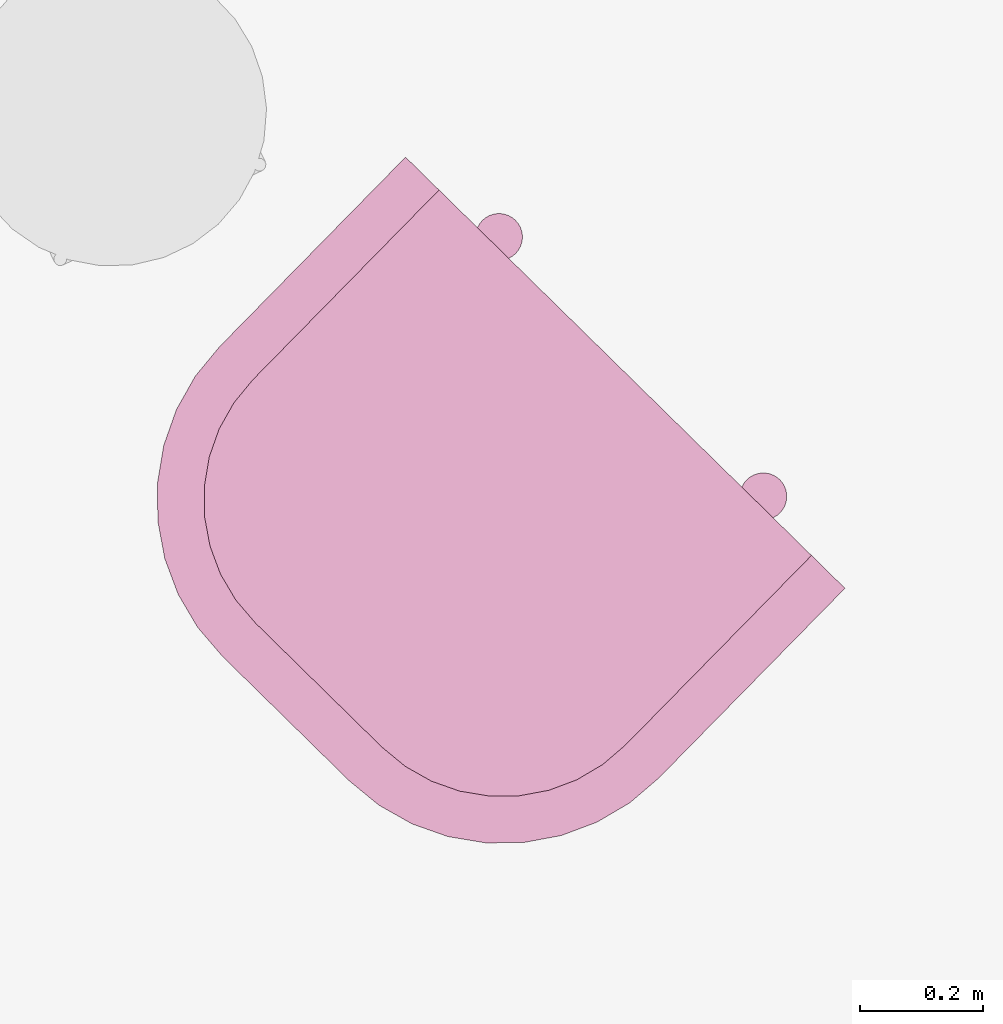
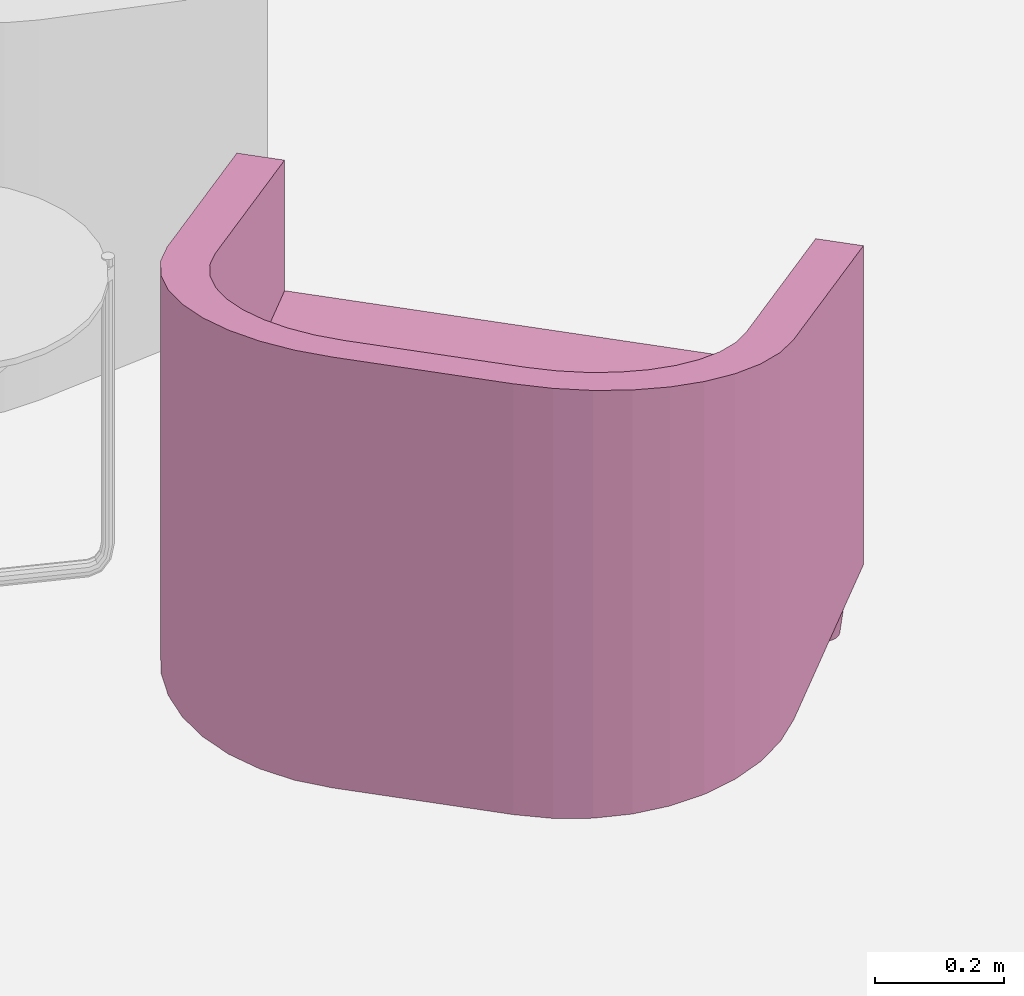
# One storey, part 24 of 36: 1 furnishing.
"""IFC2X3 building model written with IfcOpenShell, lengths in metres."""

from ifc_helpers import new_model, entity, si_unit, converted_unit, derived_unit, money_unit, direction, frame, origin_with_axes, place, context, subcontext, project, spatial, faceted_brep, source, transform, mapped, type_object, element, save


model = new_model("IFC2X3")

# Units and contexts
model_context = context("Model", 3, precision=1e-05, world=origin_with_axes(), true_north=direction((0.0, 1.0)))
body_context = subcontext(model_context, "Body", "Model", "MODEL_VIEW")
ifc_project = project(units=[si_unit("LENGTHUNIT", "METRE"), si_unit("AREAUNIT", "SQUARE_METRE"), si_unit("VOLUMEUNIT", "CUBIC_METRE"), converted_unit("PLANEANGLEUNIT", "DEGREE", entity("IfcPlaneAngleMeasure", 0.0174532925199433), si_unit("PLANEANGLEUNIT", "RADIAN"), dimensions=[0, 0, 0, 0, 0, 0, 0]), money_unit("EUR"), converted_unit("TIMEUNIT", "Year", entity("IfcTimeMeasure", 31556926.0), si_unit("TIMEUNIT", "SECOND"), dimensions=[0, 0, 1, 0, 0, 0, 0]), si_unit("MASSUNIT", "GRAM", prefix="KILO"), si_unit("THERMODYNAMICTEMPERATUREUNIT", "DEGREE_CELSIUS"), si_unit("LUMINOUSINTENSITYUNIT", "LUMEN"), si_unit("ENERGYUNIT", "JOULE", prefix="MEGA"), derived_unit("THERMALCONDUCTANCEUNIT", [(si_unit("POWERUNIT", "WATT"), 1), (si_unit("LENGTHUNIT", "METRE"), -1), (si_unit("THERMODYNAMICTEMPERATUREUNIT", "KELVIN"), -1)]), derived_unit("SPECIFICHEATCAPACITYUNIT", [(si_unit("ENERGYUNIT", "JOULE"), 1), (si_unit("MASSUNIT", "GRAM", prefix="KILO"), -1), (si_unit("THERMODYNAMICTEMPERATUREUNIT", "KELVIN"), -1)]), derived_unit("MASSDENSITYUNIT", [(si_unit("MASSUNIT", "GRAM", prefix="KILO"), 1), (si_unit("VOLUMEUNIT", "CUBIC_METRE"), -1)])], contexts=[model_context])

# Site, building, storey
site_placement = place(None, frame((-3.949935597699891, 1.740105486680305, 0.0), z_axis=(0.0, 0.0, 1.0), x_axis=(0.8799804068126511, -0.475009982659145, 0.0)))
site = spatial("IfcSite", under=ifc_project, at=site_placement, Name="Gelände", CompositionType="ELEMENT")
building_placement = place(site_placement, origin_with_axes())
building = spatial("IfcBuilding", under=site, at=building_placement, Name="Gebäude", CompositionType="ELEMENT")
storey_placement = place(building_placement, origin_with_axes())
storey = spatial("IfcBuildingStorey", under=building, at=storey_placement, Name="Erdgeschoss", CompositionType="ELEMENT", Elevation=0.0)

# Furnishing
furniture_type = type_object("IfcFurnitureType", Name="bucket chair (1)", AssemblyPlace="NOTDEFINED")
shared_shape = source(origin_with_axes(), body_context, "Body", "Brep", [
    faceted_brep([(-0.47421411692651, 0.73188933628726, 0.0), (-0.4867211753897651, 0.72968400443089, 0.1016), (-0.4873, 0.7363000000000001, 0.1016), (-0.4746, 0.7363000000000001, 0.0), (-0.473068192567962, 0.7276126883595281, 0.0), (-0.485002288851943, 0.7232690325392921, 0.1016), (-0.482195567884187, 0.71725, 0.1016), (-0.478386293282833, 0.711809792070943, 0.1016), (-0.4736902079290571, 0.707113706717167, 0.1016), (-0.4682499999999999, 0.7033044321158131, 0.1016), (-0.462230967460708, 0.700497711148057, 0.1016), (-0.45581599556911, 0.698778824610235, 0.1016), (-0.4492, 0.6982000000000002, 0.1016), (-0.44258400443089, 0.698778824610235, 0.1016), (-0.436169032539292, 0.700497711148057, 0.1016), (-0.43015, 0.703304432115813, 0.1016), (-0.4247097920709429, 0.707113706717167, 0.1016), (-0.420013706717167, 0.711809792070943, 0.1016), (-0.4162044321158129, 0.71725, 0.1016), (-0.4133977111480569, 0.7232690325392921, 0.1016), (-0.4116788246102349, 0.72968400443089, 0.1016), (-0.4111, 0.7363000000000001, 0.1016), (-0.4116788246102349, 0.7429159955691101, 0.1016), (-0.4133977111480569, 0.749330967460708, 0.1016), (-0.4162044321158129, 0.7553500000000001, 0.1016), (-0.420013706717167, 0.7607902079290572, 0.1016), (-0.4247097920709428, 0.7654862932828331, 0.1016), (-0.43015, 0.7692955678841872, 0.1016), (-0.436169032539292, 0.7721022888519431, 0.1016), (-0.44258400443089, 0.7738211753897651, 0.1016), (-0.4492, 0.7744000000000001, 0.1016), (-0.45581599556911, 0.7738211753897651, 0.1016), (-0.462230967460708, 0.7721022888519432, 0.1016), (-0.46825, 0.7692955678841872, 0.1016), (-0.4736902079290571, 0.7654862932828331, 0.1016), (-0.4783862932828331, 0.7607902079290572, 0.1016), (-0.4821955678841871, 0.7553500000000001, 0.1016), (-0.4850022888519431, 0.749330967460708, 0.1016), (-0.4867211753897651, 0.7429159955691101, 0.1016), (-0.4742141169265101, 0.7407106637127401, 0.0), (-0.4730681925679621, 0.744987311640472, 0.0), (-0.4711970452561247, 0.7490000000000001, 0.0), (-0.468657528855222, 0.7526268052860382, 0.0), (-0.4655268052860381, 0.7557575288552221, 0.0), (-0.4619, 0.7582970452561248, 0.0), (-0.457887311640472, 0.7601681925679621, 0.0), (-0.45361066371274, 0.7613141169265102, 0.0), (-0.4492, 0.7617, 0.0), (-0.44478933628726, 0.7613141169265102, 0.0), (-0.440512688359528, 0.7601681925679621, 0.0), (-0.4365, 0.7582970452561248, 0.0), (-0.4328731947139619, 0.7557575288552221, 0.0), (-0.429742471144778, 0.7526268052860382, 0.0), (-0.4272029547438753, 0.7490000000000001, 0.0), (-0.4253318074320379, 0.744987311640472, 0.0), (-0.4241858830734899, 0.7407106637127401, 0.0), (-0.4238, 0.7363000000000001, 0.0), (-0.4241858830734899, 0.73188933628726, 0.0), (-0.4253318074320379, 0.7276126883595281, 0.0), (-0.4272029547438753, 0.7236000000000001, 0.0), (-0.429742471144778, 0.719973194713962, 0.0), (-0.4328731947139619, 0.7168424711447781, 0.0), (-0.4365, 0.7143029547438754, 0.0), (-0.440512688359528, 0.712431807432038, 0.0), (-0.44478933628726, 0.71128588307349, 0.0), (-0.4492, 0.7109000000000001, 0.0), (-0.45361066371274, 0.71128588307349, 0.0), (-0.457887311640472, 0.712431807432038, 0.0), (-0.4619, 0.7143029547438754, 0.0), (-0.4655268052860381, 0.7168424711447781, 0.0), (-0.468657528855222, 0.719973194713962, 0.0), (-0.4711970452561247, 0.7236000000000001, 0.0)], [[[0, 1, 2, 3]], [[4, 5, 1, 0]], [[1, 5, 6, 7, 8, 9, 10, 11, 12, 13, 14, 15, 16, 17, 18, 19, 20, 21, 22, 23, 24, 25, 26, 27, 28, 29, 30, 31, 32, 33, 34, 35, 36, 37, 38, 2]], [[3, 2, 38, 39]], [[0, 3, 39, 40, 41, 42, 43, 44, 45, 46, 47, 48, 49, 50, 51, 52, 53, 54, 55, 56, 57, 58, 59, 60, 61, 62, 63, 64, 65, 66, 67, 68, 69, 70, 71, 4]], [[71, 6, 5, 4]], [[70, 7, 6, 71]], [[69, 8, 7, 70]], [[68, 9, 8, 69]], [[67, 10, 9, 68]], [[66, 11, 10, 67]], [[65, 12, 11, 66]], [[64, 13, 12, 65]], [[63, 14, 13, 64]], [[62, 15, 14, 63]], [[61, 16, 15, 62]], [[60, 17, 16, 61]], [[59, 18, 17, 60]], [[58, 19, 18, 59]], [[57, 20, 19, 58]], [[56, 21, 20, 57]], [[55, 22, 21, 56]], [[54, 23, 22, 55]], [[53, 24, 23, 54]], [[52, 25, 24, 53]], [[51, 26, 25, 52]], [[50, 27, 26, 51]], [[49, 28, 27, 50]], [[48, 29, 28, 49]], [[47, 30, 29, 48]], [[46, 31, 30, 47]], [[45, 32, 31, 46]], [[44, 33, 32, 45]], [[43, 34, 33, 44]], [[42, 35, 34, 43]], [[41, 36, 35, 42]], [[40, 37, 36, 41]], [[39, 38, 37, 40]]]),
    faceted_brep([(0.42418588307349, 0.73188933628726, 0.0), (0.4116788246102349, 0.72968400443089, 0.1016), (0.4111, 0.7363000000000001, 0.1016), (0.4238, 0.7363000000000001, 0.0), (0.425331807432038, 0.7276126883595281, 0.0), (0.413397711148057, 0.7232690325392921, 0.1016), (0.4162044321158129, 0.71725, 0.1016), (0.420013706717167, 0.711809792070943, 0.1016), (0.4247097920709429, 0.707113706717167, 0.1016), (0.43015, 0.7033044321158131, 0.1016), (0.436169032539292, 0.700497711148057, 0.1016), (0.44258400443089, 0.698778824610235, 0.1016), (0.4492, 0.6982000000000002, 0.1016), (0.45581599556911, 0.698778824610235, 0.1016), (0.462230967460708, 0.700497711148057, 0.1016), (0.4682499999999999, 0.703304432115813, 0.1016), (0.4736902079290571, 0.707113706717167, 0.1016), (0.478386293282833, 0.711809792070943, 0.1016), (0.482195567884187, 0.71725, 0.1016), (0.4850022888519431, 0.7232690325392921, 0.1016), (0.4867211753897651, 0.72968400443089, 0.1016), (0.4873, 0.7363000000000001, 0.1016), (0.4867211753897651, 0.7429159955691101, 0.1016), (0.4850022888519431, 0.749330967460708, 0.1016), (0.482195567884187, 0.7553500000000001, 0.1016), (0.478386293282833, 0.7607902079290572, 0.1016), (0.4736902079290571, 0.7654862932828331, 0.1016), (0.4682499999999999, 0.7692955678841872, 0.1016), (0.462230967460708, 0.7721022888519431, 0.1016), (0.45581599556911, 0.7738211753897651, 0.1016), (0.4492, 0.7744000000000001, 0.1016), (0.44258400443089, 0.7738211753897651, 0.1016), (0.436169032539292, 0.7721022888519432, 0.1016), (0.43015, 0.7692955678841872, 0.1016), (0.4247097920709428, 0.7654862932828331, 0.1016), (0.4200137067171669, 0.7607902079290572, 0.1016), (0.4162044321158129, 0.7553500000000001, 0.1016), (0.4133977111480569, 0.749330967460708, 0.1016), (0.4116788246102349, 0.7429159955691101, 0.1016), (0.4241858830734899, 0.7407106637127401, 0.0), (0.4253318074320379, 0.744987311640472, 0.0), (0.4272029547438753, 0.7490000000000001, 0.0), (0.4297424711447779, 0.7526268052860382, 0.0), (0.4328731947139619, 0.7557575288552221, 0.0), (0.4365, 0.7582970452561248, 0.0), (0.440512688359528, 0.7601681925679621, 0.0), (0.44478933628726, 0.7613141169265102, 0.0), (0.4492, 0.7617, 0.0), (0.45361066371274, 0.7613141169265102, 0.0), (0.457887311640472, 0.7601681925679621, 0.0), (0.4619, 0.7582970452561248, 0.0), (0.4655268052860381, 0.7557575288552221, 0.0), (0.468657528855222, 0.7526268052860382, 0.0), (0.4711970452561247, 0.7490000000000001, 0.0), (0.4730681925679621, 0.744987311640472, 0.0), (0.4742141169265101, 0.7407106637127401, 0.0), (0.4746, 0.7363000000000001, 0.0), (0.4742141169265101, 0.73188933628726, 0.0), (0.4730681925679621, 0.7276126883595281, 0.0), (0.4711970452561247, 0.7236000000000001, 0.0), (0.468657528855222, 0.719973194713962, 0.0), (0.4655268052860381, 0.7168424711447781, 0.0), (0.4619, 0.7143029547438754, 0.0), (0.457887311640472, 0.712431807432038, 0.0), (0.45361066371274, 0.71128588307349, 0.0), (0.4492, 0.7109000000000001, 0.0), (0.44478933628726, 0.71128588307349, 0.0), (0.440512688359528, 0.712431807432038, 0.0), (0.4365, 0.7143029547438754, 0.0), (0.4328731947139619, 0.7168424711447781, 0.0), (0.429742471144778, 0.719973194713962, 0.0), (0.4272029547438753, 0.7236000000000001, 0.0)], [[[0, 1, 2, 3]], [[4, 5, 1, 0]], [[1, 5, 6, 7, 8, 9, 10, 11, 12, 13, 14, 15, 16, 17, 18, 19, 20, 21, 22, 23, 24, 25, 26, 27, 28, 29, 30, 31, 32, 33, 34, 35, 36, 37, 38, 2]], [[3, 2, 38, 39]], [[0, 3, 39, 40, 41, 42, 43, 44, 45, 46, 47, 48, 49, 50, 51, 52, 53, 54, 55, 56, 57, 58, 59, 60, 61, 62, 63, 64, 65, 66, 67, 68, 69, 70, 71, 4]], [[71, 6, 5, 4]], [[70, 7, 6, 71]], [[69, 8, 7, 70]], [[68, 9, 8, 69]], [[67, 10, 9, 68]], [[66, 11, 10, 67]], [[65, 12, 11, 66]], [[64, 13, 12, 65]], [[63, 14, 13, 64]], [[62, 15, 14, 63]], [[61, 16, 15, 62]], [[60, 17, 16, 61]], [[59, 18, 17, 60]], [[58, 19, 18, 59]], [[57, 20, 19, 58]], [[56, 21, 20, 57]], [[55, 22, 21, 56]], [[54, 23, 22, 55]], [[53, 24, 23, 54]], [[52, 25, 24, 53]], [[51, 26, 25, 52]], [[50, 27, 26, 51]], [[49, 28, 27, 50]], [[48, 29, 28, 49]], [[47, 30, 29, 48]], [[46, 31, 30, 47]], [[45, 32, 31, 46]], [[44, 33, 32, 45]], [[43, 34, 33, 44]], [[42, 35, 34, 43]], [[41, 36, 35, 42]], [[40, 37, 36, 41]], [[39, 38, 37, 40]]]),
    faceted_brep([(-0.3258141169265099, 0.7963893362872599, 0.0), (-0.338321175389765, 0.7941840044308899, 0.1016), (-0.3388999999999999, 0.8008, 0.1016), (-0.3261999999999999, 0.8008, 0.0), (-0.3246681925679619, 0.792112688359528, 0.0), (-0.3366022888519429, 0.787769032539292, 0.1016), (-0.333795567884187, 0.78175, 0.1016), (-0.3299862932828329, 0.7763097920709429, 0.1016), (-0.325290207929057, 0.7716137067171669, 0.1016), (-0.3198499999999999, 0.767804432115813, 0.1016), (-0.3138309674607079, 0.7649977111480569, 0.1016), (-0.3074159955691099, 0.7632788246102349, 0.1016), (-0.3007999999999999, 0.7627, 0.1016), (-0.2941840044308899, 0.7632788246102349, 0.1016), (-0.2877690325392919, 0.7649977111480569, 0.1016), (-0.2817499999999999, 0.7678044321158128, 0.1016), (-0.2763097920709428, 0.7716137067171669, 0.1016), (-0.2716137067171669, 0.7763097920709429, 0.1016), (-0.2678044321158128, 0.78175, 0.1016), (-0.2649977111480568, 0.787769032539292, 0.1016), (-0.2632788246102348, 0.7941840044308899, 0.1016), (-0.2626999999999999, 0.8008, 0.1016), (-0.2632788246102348, 0.80741599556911, 0.1016), (-0.2649977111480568, 0.8138309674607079, 0.1016), (-0.2678044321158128, 0.81985, 0.1016), (-0.2716137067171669, 0.825290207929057, 0.1016), (-0.2763097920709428, 0.829986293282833, 0.1016), (-0.2817499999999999, 0.8337955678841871, 0.1016), (-0.2877690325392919, 0.8366022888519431, 0.1016), (-0.2941840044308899, 0.838321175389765, 0.1016), (-0.3007999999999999, 0.8389, 0.1016), (-0.3074159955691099, 0.838321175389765, 0.1016), (-0.3138309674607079, 0.8366022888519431, 0.1016), (-0.3198499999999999, 0.8337955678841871, 0.1016), (-0.3252902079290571, 0.829986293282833, 0.1016), (-0.329986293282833, 0.825290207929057, 0.1016), (-0.333795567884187, 0.81985, 0.1016), (-0.336602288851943, 0.8138309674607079, 0.1016), (-0.338321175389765, 0.80741599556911, 0.1016), (-0.32581411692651, 0.80521066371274, 0.0), (-0.324668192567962, 0.8094873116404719, 0.0), (-0.3227970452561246, 0.8135, 0.0), (-0.320257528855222, 0.8171268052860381, 0.0), (-0.317126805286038, 0.820257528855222, 0.0), (-0.3134999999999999, 0.8227970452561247, 0.0), (-0.3094873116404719, 0.824668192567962, 0.0), (-0.3052106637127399, 0.8258141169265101, 0.0), (-0.3007999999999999, 0.8261999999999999, 0.0), (-0.2963893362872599, 0.8258141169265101, 0.0), (-0.2921126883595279, 0.824668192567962, 0.0), (-0.2880999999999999, 0.8227970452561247, 0.0), (-0.2844731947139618, 0.820257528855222, 0.0), (-0.2813424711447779, 0.8171268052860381, 0.0), (-0.2788029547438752, 0.8135, 0.0), (-0.2769318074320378, 0.8094873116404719, 0.0), (-0.2757858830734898, 0.80521066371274, 0.0), (-0.2753999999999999, 0.8008, 0.0), (-0.2757858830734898, 0.7963893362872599, 0.0), (-0.2769318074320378, 0.792112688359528, 0.0), (-0.2788029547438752, 0.7881, 0.0), (-0.2813424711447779, 0.7844731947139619, 0.0), (-0.2844731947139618, 0.781342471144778, 0.0), (-0.2880999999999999, 0.7788029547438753, 0.0), (-0.2921126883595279, 0.7769318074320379, 0.0), (-0.2963893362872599, 0.77578588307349, 0.0), (-0.3007999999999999, 0.7754, 0.0), (-0.3052106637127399, 0.77578588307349, 0.0), (-0.3094873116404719, 0.7769318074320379, 0.0), (-0.3134999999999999, 0.7788029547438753, 0.0), (-0.317126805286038, 0.781342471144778, 0.0), (-0.3202575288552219, 0.7844731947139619, 0.0), (-0.3227970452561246, 0.7881, 0.0)], [[[0, 1, 2, 3]], [[4, 5, 1, 0]], [[1, 5, 6, 7, 8, 9, 10, 11, 12, 13, 14, 15, 16, 17, 18, 19, 20, 21, 22, 23, 24, 25, 26, 27, 28, 29, 30, 31, 32, 33, 34, 35, 36, 37, 38, 2]], [[3, 2, 38, 39]], [[0, 3, 39, 40, 41, 42, 43, 44, 45, 46, 47, 48, 49, 50, 51, 52, 53, 54, 55, 56, 57, 58, 59, 60, 61, 62, 63, 64, 65, 66, 67, 68, 69, 70, 71, 4]], [[71, 6, 5, 4]], [[70, 7, 6, 71]], [[69, 8, 7, 70]], [[68, 9, 8, 69]], [[67, 10, 9, 68]], [[66, 11, 10, 67]], [[65, 12, 11, 66]], [[64, 13, 12, 65]], [[63, 14, 13, 64]], [[62, 15, 14, 63]], [[61, 16, 15, 62]], [[60, 17, 16, 61]], [[59, 18, 17, 60]], [[58, 19, 18, 59]], [[57, 20, 19, 58]], [[56, 21, 20, 57]], [[55, 22, 21, 56]], [[54, 23, 22, 55]], [[53, 24, 23, 54]], [[52, 25, 24, 53]], [[51, 26, 25, 52]], [[50, 27, 26, 51]], [[49, 28, 27, 50]], [[48, 29, 28, 49]], [[47, 30, 29, 48]], [[46, 31, 30, 47]], [[45, 32, 31, 46]], [[44, 33, 32, 45]], [[43, 34, 33, 44]], [[42, 35, 34, 43]], [[41, 36, 35, 42]], [[40, 37, 36, 41]], [[39, 38, 37, 40]]]),
    faceted_brep([(0.2757858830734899, 0.7963893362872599, 0.0), (0.2632788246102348, 0.7941840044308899, 0.1016), (0.2626999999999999, 0.8008, 0.1016), (0.2753999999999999, 0.8008, 0.0), (0.2769318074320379, 0.792112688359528, 0.0), (0.2649977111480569, 0.787769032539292, 0.1016), (0.2678044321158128, 0.78175, 0.1016), (0.2716137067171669, 0.7763097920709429, 0.1016), (0.2763097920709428, 0.7716137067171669, 0.1016), (0.2817499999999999, 0.767804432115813, 0.1016), (0.2877690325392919, 0.7649977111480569, 0.1016), (0.2941840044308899, 0.7632788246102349, 0.1016), (0.3007999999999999, 0.7627, 0.1016), (0.3074159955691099, 0.7632788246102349, 0.1016), (0.3138309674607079, 0.7649977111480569, 0.1016), (0.3198499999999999, 0.7678044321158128, 0.1016), (0.325290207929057, 0.7716137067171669, 0.1016), (0.3299862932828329, 0.7763097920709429, 0.1016), (0.333795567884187, 0.78175, 0.1016), (0.336602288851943, 0.787769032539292, 0.1016), (0.338321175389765, 0.7941840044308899, 0.1016), (0.3388999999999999, 0.8008, 0.1016), (0.338321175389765, 0.80741599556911, 0.1016), (0.336602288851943, 0.8138309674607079, 0.1016), (0.333795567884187, 0.81985, 0.1016), (0.3299862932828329, 0.825290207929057, 0.1016), (0.3252902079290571, 0.829986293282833, 0.1016), (0.3198499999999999, 0.8337955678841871, 0.1016), (0.3138309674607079, 0.8366022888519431, 0.1016), (0.3074159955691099, 0.838321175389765, 0.1016), (0.3007999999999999, 0.8389, 0.1016), (0.2941840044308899, 0.838321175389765, 0.1016), (0.2877690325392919, 0.8366022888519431, 0.1016), (0.2817499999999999, 0.8337955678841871, 0.1016), (0.2763097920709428, 0.829986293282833, 0.1016), (0.2716137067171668, 0.825290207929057, 0.1016), (0.2678044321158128, 0.81985, 0.1016), (0.2649977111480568, 0.8138309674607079, 0.1016), (0.2632788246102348, 0.80741599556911, 0.1016), (0.2757858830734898, 0.80521066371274, 0.0), (0.2769318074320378, 0.8094873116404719, 0.0), (0.2788029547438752, 0.8135, 0.0), (0.2813424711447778, 0.8171268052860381, 0.0), (0.2844731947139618, 0.820257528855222, 0.0), (0.2880999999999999, 0.8227970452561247, 0.0), (0.2921126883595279, 0.824668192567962, 0.0), (0.2963893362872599, 0.8258141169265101, 0.0), (0.3007999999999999, 0.8261999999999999, 0.0), (0.3052106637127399, 0.8258141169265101, 0.0), (0.3094873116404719, 0.824668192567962, 0.0), (0.3134999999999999, 0.8227970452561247, 0.0), (0.317126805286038, 0.820257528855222, 0.0), (0.3202575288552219, 0.8171268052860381, 0.0), (0.3227970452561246, 0.8135, 0.0), (0.324668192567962, 0.8094873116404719, 0.0), (0.32581411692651, 0.80521066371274, 0.0), (0.3261999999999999, 0.8008, 0.0), (0.32581411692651, 0.7963893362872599, 0.0), (0.324668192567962, 0.792112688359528, 0.0), (0.3227970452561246, 0.7881, 0.0), (0.3202575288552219, 0.7844731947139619, 0.0), (0.317126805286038, 0.781342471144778, 0.0), (0.3134999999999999, 0.7788029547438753, 0.0), (0.3094873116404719, 0.7769318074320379, 0.0), (0.3052106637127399, 0.77578588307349, 0.0), (0.3007999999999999, 0.7754, 0.0), (0.2963893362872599, 0.77578588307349, 0.0), (0.2921126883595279, 0.7769318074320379, 0.0), (0.2880999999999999, 0.7788029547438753, 0.0), (0.2844731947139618, 0.781342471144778, 0.0), (0.2813424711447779, 0.7844731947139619, 0.0), (0.2788029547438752, 0.7881, 0.0)], [[[0, 1, 2, 3]], [[4, 5, 1, 0]], [[1, 5, 6, 7, 8, 9, 10, 11, 12, 13, 14, 15, 16, 17, 18, 19, 20, 21, 22, 23, 24, 25, 26, 27, 28, 29, 30, 31, 32, 33, 34, 35, 36, 37, 38, 2]], [[3, 2, 38, 39]], [[0, 3, 39, 40, 41, 42, 43, 44, 45, 46, 47, 48, 49, 50, 51, 52, 53, 54, 55, 56, 57, 58, 59, 60, 61, 62, 63, 64, 65, 66, 67, 68, 69, 70, 71, 4]], [[71, 6, 5, 4]], [[70, 7, 6, 71]], [[69, 8, 7, 70]], [[68, 9, 8, 69]], [[67, 10, 9, 68]], [[66, 11, 10, 67]], [[65, 12, 11, 66]], [[64, 13, 12, 65]], [[63, 14, 13, 64]], [[62, 15, 14, 63]], [[61, 16, 15, 62]], [[60, 17, 16, 61]], [[59, 18, 17, 60]], [[58, 19, 18, 59]], [[57, 20, 19, 58]], [[56, 21, 20, 57]], [[55, 22, 21, 56]], [[54, 23, 22, 55]], [[53, 24, 23, 54]], [[52, 25, 24, 53]], [[51, 26, 25, 52]], [[50, 27, 26, 51]], [[49, 28, 27, 50]], [[48, 29, 28, 49]], [[47, 30, 29, 48]], [[46, 31, 30, 47]], [[45, 32, 31, 46]], [[44, 33, 32, 45]], [[43, 34, 33, 44]], [[42, 35, 34, 43]], [[41, 36, 35, 42]], [[40, 37, 36, 41]], [[39, 38, 37, 40]]]),
    faceted_brep([(0.5, 0.7871, 0.1016), (0.5, 0.7871, 0.7034971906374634), (0.5, 0.3556, 0.8191172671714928), (0.5, 0.3556, 0.1016), (0.4238, 0.7871, 0.1016), (0.4238, 0.7871, 0.7034971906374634), (0.4238, 0.3556000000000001, 0.8191172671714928), (0.4195552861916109, 0.3070826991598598, 0.8321174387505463), (0.4069501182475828, 0.2600395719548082, 0.8447226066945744), (0.3863674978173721, 0.2159000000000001, 0.8565497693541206), (0.3584328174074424, 0.176005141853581, 0.8672395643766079), (0.323994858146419, 0.1415671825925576, 0.8764671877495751), (0.2841, 0.1136325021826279, 0.8839522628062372), (0.2399604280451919, 0.09304988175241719, 0.8894673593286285), (0.1929173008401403, 0.08044471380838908, 0.8928449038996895), (0.1444, 0.0762, 0.8939822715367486), (-0.1444000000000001, 0.07620000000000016, 0.8939822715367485), (-0.1929173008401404, 0.08044471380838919, 0.8928449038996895), (-0.2399604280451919, 0.0930498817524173, 0.8894673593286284), (-0.2841, 0.1136325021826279, 0.8839522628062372), (-0.3239948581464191, 0.1415671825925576, 0.8764671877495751), (-0.3584328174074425, 0.176005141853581, 0.8672395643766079), (-0.3863674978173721, 0.2159000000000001, 0.8565497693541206), (-0.4069501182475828, 0.2600395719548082, 0.8447226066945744), (-0.4195552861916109, 0.3070826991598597, 0.8321174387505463), (-0.4238, 0.3556, 0.8191172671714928), (-0.4238, 0.7871, 0.7034971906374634), (-0.5, 0.7871, 0.7034971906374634), (-0.4999999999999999, 0.3555999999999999, 0.8191172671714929), (-0.494597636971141, 0.2938507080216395, 0.8356629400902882), (-0.4785546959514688, 0.2339776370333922, 0.8517058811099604), (-0.4523586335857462, 0.1778, 0.8667586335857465), (-0.4168054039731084, 0.1270247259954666, 0.8803638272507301), (-0.3729752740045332, 0.08319459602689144, 0.8921080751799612), (-0.3221999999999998, 0.04764136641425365, 0.9016345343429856), (-0.2660223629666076, 0.02144530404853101, 0.9086537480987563), (-0.2061492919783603, 0.005402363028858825, 0.9129524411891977), (-0.1444, 0.0, 0.9144000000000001), (0.0, 0.0, 0.9144000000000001), (0.1444000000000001, 0.0, 0.9144000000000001), (0.2061492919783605, 0.005402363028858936, 0.9129524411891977), (0.2660223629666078, 0.02144530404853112, 0.9086537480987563), (0.3222, 0.04764136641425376, 0.9016345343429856), (0.3729752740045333, 0.08319459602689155, 0.892108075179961), (0.4168054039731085, 0.1270247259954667, 0.8803638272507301), (0.4523586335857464, 0.1778000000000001, 0.8667586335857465), (0.4785546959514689, 0.2339776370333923, 0.8517058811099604), (0.4945976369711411, 0.2938507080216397, 0.8356629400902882), (0.4945976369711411, 0.2938507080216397, 0.1016), (0.4785546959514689, 0.2339776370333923, 0.1016), (0.4523586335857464, 0.1778000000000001, 0.1016), (0.4168054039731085, 0.1270247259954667, 0.1016), (0.3729752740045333, 0.08319459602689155, 0.1016), (0.3222, 0.04764136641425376, 0.1016), (0.2660223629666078, 0.02144530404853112, 0.1016), (0.2061492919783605, 0.005402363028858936, 0.1016), (0.1444000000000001, 0.0, 0.1016), (0.0, 0.0, 0.1016), (-0.1444, 0.0, 0.1016), (-0.2061492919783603, 0.005402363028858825, 0.1016), (-0.2660223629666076, 0.02144530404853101, 0.1016), (-0.3221999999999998, 0.04764136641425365, 0.1016), (-0.3729752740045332, 0.08319459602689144, 0.1016), (-0.4168054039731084, 0.1270247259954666, 0.1016), (-0.4523586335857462, 0.1778, 0.1016), (-0.4785546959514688, 0.2339776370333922, 0.1016), (-0.494597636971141, 0.2938507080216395, 0.1016), (-0.4999999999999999, 0.3555999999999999, 0.1016), (-0.5, 0.7871, 0.1016), (-0.4238, 0.7871, 0.1016), (-0.4238, 0.3556, 0.1016), (-0.4195552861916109, 0.3070826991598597, 0.1016), (-0.4069501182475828, 0.2600395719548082, 0.1016), (-0.3863674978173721, 0.2159000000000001, 0.1016), (-0.3584328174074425, 0.176005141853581, 0.1016), (-0.3239948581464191, 0.1415671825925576, 0.1016), (-0.2841, 0.1136325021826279, 0.1016), (-0.2399604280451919, 0.0930498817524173, 0.1016), (-0.1929173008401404, 0.08044471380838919, 0.1016), (-0.1444000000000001, 0.07620000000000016, 0.1016), (0.1444, 0.0762, 0.1016), (0.1929173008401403, 0.08044471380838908, 0.1016), (0.2399604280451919, 0.09304988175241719, 0.1016), (0.2841, 0.1136325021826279, 0.1016), (0.323994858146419, 0.1415671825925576, 0.1016), (0.3584328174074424, 0.176005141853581, 0.1016), (0.3863674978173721, 0.2159000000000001, 0.1016), (0.4069501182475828, 0.2600395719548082, 0.1016), (0.4195552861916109, 0.3070826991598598, 0.1016), (0.4238, 0.3556000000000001, 0.1016)], [[[0, 1, 2, 3]], [[4, 5, 1, 0]], [[1, 5, 6, 7, 8, 9, 10, 11, 12, 13, 14, 15, 16, 17, 18, 19, 20, 21, 22, 23, 24, 25, 26, 27, 28, 29, 30, 31, 32, 33, 34, 35, 36, 37, 38, 39, 40, 41, 42, 43, 44, 45, 46, 47, 2]], [[3, 2, 47, 48]], [[0, 3, 48, 49, 50, 51, 52, 53, 54, 55, 56, 57, 58, 59, 60, 61, 62, 63, 64, 65, 66, 67, 68, 69, 70, 71, 72, 73, 74, 75, 76, 77, 78, 79, 80, 81, 82, 83, 84, 85, 86, 87, 88, 89, 4]], [[89, 6, 5, 4]], [[88, 7, 6, 89]], [[87, 8, 7, 88]], [[86, 9, 8, 87]], [[85, 10, 9, 86]], [[84, 11, 10, 85]], [[83, 12, 11, 84]], [[82, 13, 12, 83]], [[81, 14, 13, 82]], [[80, 15, 14, 81]], [[79, 16, 15, 80]], [[78, 17, 16, 79]], [[77, 18, 17, 78]], [[76, 19, 18, 77]], [[75, 20, 19, 76]], [[74, 21, 20, 75]], [[73, 22, 21, 74]], [[72, 23, 22, 73]], [[71, 24, 23, 72]], [[70, 25, 24, 71]], [[69, 26, 25, 70]], [[68, 27, 26, 69]], [[67, 28, 27, 68]], [[66, 29, 28, 67]], [[65, 30, 29, 66]], [[64, 31, 30, 65]], [[63, 32, 31, 64]], [[62, 33, 32, 63]], [[61, 34, 33, 62]], [[60, 35, 34, 61]], [[59, 36, 35, 60]], [[58, 37, 36, 59]], [[57, 38, 37, 58]], [[56, 39, 38, 57]], [[55, 40, 39, 56]], [[54, 41, 40, 55]], [[53, 42, 41, 54]], [[52, 43, 42, 53]], [[51, 44, 43, 52]], [[50, 45, 44, 51]], [[49, 46, 45, 50]], [[48, 47, 46, 49]]]),
    faceted_brep([(0.4238, 0.7871, 0.1016), (0.4238, 0.7871, 0.4572000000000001), (0.4238, 0.3556000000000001, 0.4572000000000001), (0.4238, 0.3556000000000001, 0.1016), (-0.4238, 0.7871, 0.1016), (-0.4238, 0.7871, 0.4572000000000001), (-0.4238, 0.3556, 0.4572000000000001), (-0.4195552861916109, 0.3070826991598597, 0.4572000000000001), (-0.4069501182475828, 0.2600395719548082, 0.4572000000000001), (-0.3863674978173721, 0.2159000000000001, 0.4572000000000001), (-0.3584328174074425, 0.176005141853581, 0.4572000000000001), (-0.3239948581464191, 0.1415671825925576, 0.4572000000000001), (-0.2841, 0.1136325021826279, 0.4572000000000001), (-0.2399604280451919, 0.0930498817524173, 0.4572000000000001), (-0.1929173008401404, 0.08044471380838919, 0.4572000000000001), (-0.1444000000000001, 0.07620000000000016, 0.4572000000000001), (0.1444, 0.0762, 0.4572000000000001), (0.1929173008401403, 0.08044471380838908, 0.4572000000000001), (0.2399604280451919, 0.09304988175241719, 0.4572000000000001), (0.2841, 0.1136325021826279, 0.4572000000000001), (0.323994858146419, 0.1415671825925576, 0.4572000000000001), (0.3584328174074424, 0.176005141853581, 0.4572000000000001), (0.3863674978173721, 0.2159000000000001, 0.4572000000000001), (0.4069501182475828, 0.2600395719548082, 0.4572000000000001), (0.4195552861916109, 0.3070826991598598, 0.4572000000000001), (0.4195552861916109, 0.3070826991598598, 0.1016), (0.4069501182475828, 0.2600395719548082, 0.1016), (0.3863674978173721, 0.2159000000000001, 0.1016), (0.3584328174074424, 0.176005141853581, 0.1016), (0.323994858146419, 0.1415671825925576, 0.1016), (0.2841, 0.1136325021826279, 0.1016), (0.2399604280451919, 0.09304988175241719, 0.1016), (0.1929173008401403, 0.08044471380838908, 0.1016), (0.1444, 0.0762, 0.1016), (-0.1444000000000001, 0.07620000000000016, 0.1016), (-0.1929173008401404, 0.08044471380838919, 0.1016), (-0.2399604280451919, 0.0930498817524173, 0.1016), (-0.2841, 0.1136325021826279, 0.1016), (-0.3239948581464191, 0.1415671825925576, 0.1016), (-0.3584328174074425, 0.176005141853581, 0.1016), (-0.3863674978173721, 0.2159000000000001, 0.1016), (-0.4069501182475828, 0.2600395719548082, 0.1016), (-0.4195552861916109, 0.3070826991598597, 0.1016), (-0.4238, 0.3556, 0.1016)], [[[0, 1, 2, 3]], [[4, 5, 1, 0]], [[1, 5, 6, 7, 8, 9, 10, 11, 12, 13, 14, 15, 16, 17, 18, 19, 20, 21, 22, 23, 24, 2]], [[3, 2, 24, 25]], [[0, 3, 25, 26, 27, 28, 29, 30, 31, 32, 33, 34, 35, 36, 37, 38, 39, 40, 41, 42, 43, 4]], [[43, 6, 5, 4]], [[42, 7, 6, 43]], [[41, 8, 7, 42]], [[40, 9, 8, 41]], [[39, 10, 9, 40]], [[38, 11, 10, 39]], [[37, 12, 11, 38]], [[36, 13, 12, 37]], [[35, 14, 13, 36]], [[34, 15, 14, 35]], [[33, 16, 15, 34]], [[32, 17, 16, 33]], [[31, 18, 17, 32]], [[30, 19, 18, 31]], [[29, 20, 19, 30]], [[28, 21, 20, 29]], [[27, 22, 21, 28]], [[26, 23, 22, 27]], [[25, 24, 23, 26]]]),
])
furnishing_placement = place(storey_placement, frame((24.66939743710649, 11.9610500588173, 0.0), z_axis=(0.0, 0.0, 1.0), x_axis=(0.9607991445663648, -0.2772453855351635, 0.0)))
element("IfcFurnishingElement", 1, at=furnishing_placement, inside=storey, type_object=furniture_type, Name="Objekt-0069", ObjectType="FURNITURE", context=body_context, shape_type="MappedRepresentation", body=[
    mapped(shared_shape, transform((0.0, 0.0, 0.0))),
])

save(model, "model.ifc")
